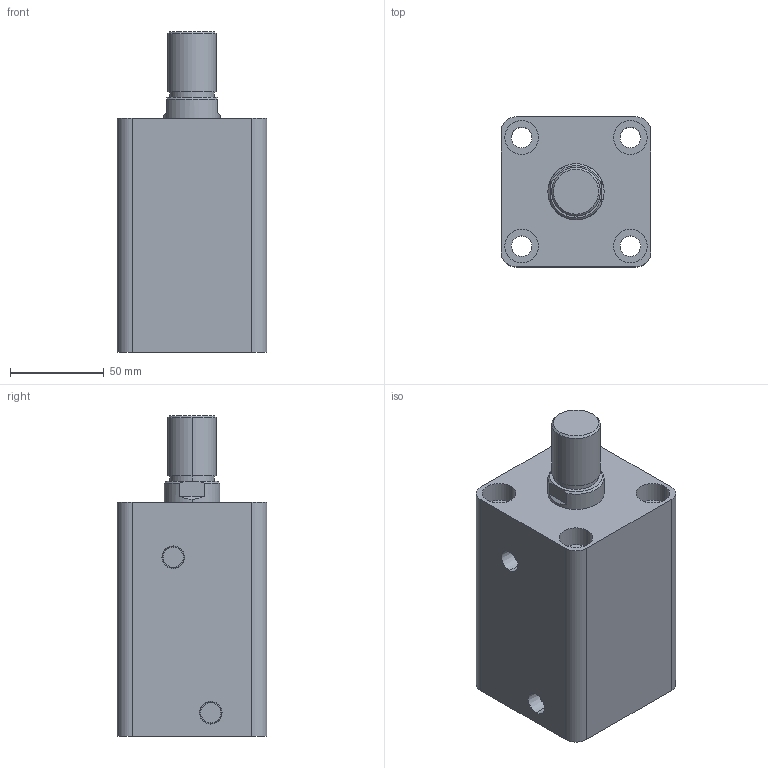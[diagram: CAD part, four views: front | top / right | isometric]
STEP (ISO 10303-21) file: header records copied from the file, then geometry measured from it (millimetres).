
FILE_DESCRIPTION (( 'STEP AP203' ), '1' );
FILE_NAME ('HTB-SD50-65W.STEP', '2019-10-07T07:11:38', ( '微软用户' ), ( '微软中国' ), 'SwSTEP 2.0', 'SolidWorks 2012', '' );
FILE_SCHEMA (( 'CONFIG_CONTROL_DESIGN' ));
Length unit declared in the file: millimetre
Products named in the file (3): HTB-SD50-65W; HTB-SD50-65W活塞杆; HTB-SD50-65掛极
Assembly tree (2 placements, depth 2):
  HTB-SD50-65W
    HTB-SD50-65掛极
    HTB-SD50-65W活塞杆
Bounding box: 80 x 80 x 171 mm (x, y, z)
Volume: 673309.1 mm3; surface area: 108741.8 mm2
Topology: 2 solids, 2 shells, 87 faces, 190 edges, 124 vertices
Faces by surface type: cylinder 44, plane 29, cone 8, torus 6
Entity records: 2761 total; most frequent: DIRECTION 478, CARTESIAN_POINT 434, ORIENTED_EDGE 380, AXIS2_PLACEMENT_3D 204, EDGE_CURVE 190, VERTEX_POINT 124, CIRCLE 112, EDGE_LOOP 112
